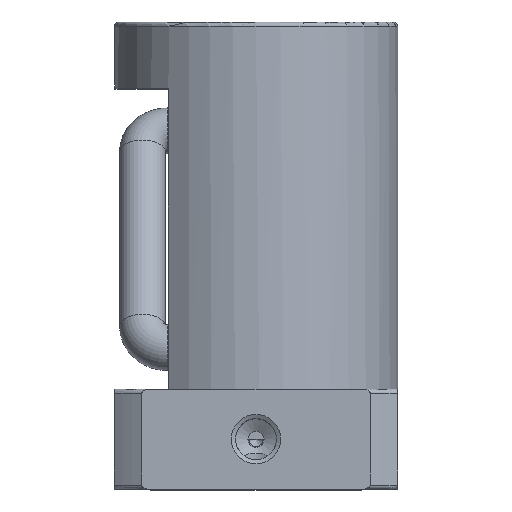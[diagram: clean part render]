
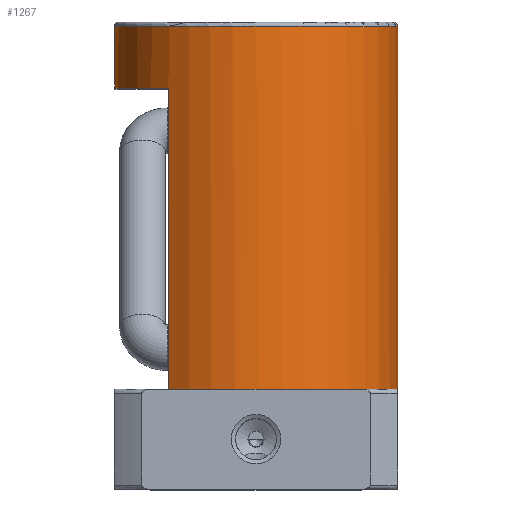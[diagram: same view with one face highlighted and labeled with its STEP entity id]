
A CAD part, top view. The second image highlights one B-rep face of the part: STEP entity #1267.
In plain terms, the highlighted cylindrical face has radius 17 mm (diameter 34 mm), a full revolution.
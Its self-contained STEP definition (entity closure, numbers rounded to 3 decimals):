
#40=CYLINDRICAL_SURFACE('',#1336,17.);
#100=CIRCLE('',#1337,17.);
#101=CIRCLE('',#1338,17.);
#102=CIRCLE('',#1339,17.);
#103=CIRCLE('',#1340,17.);
#167=ORIENTED_EDGE('',*,*,#391,.T.);
#168=ORIENTED_EDGE('',*,*,#392,.F.);
#169=ORIENTED_EDGE('',*,*,#382,.T.);
#170=ORIENTED_EDGE('',*,*,#393,.T.);
#171=ORIENTED_EDGE('',*,*,#394,.T.);
#172=ORIENTED_EDGE('',*,*,#380,.T.);
#380=EDGE_CURVE('',#493,#491,#580,.F.);
#382=EDGE_CURVE('',#492,#494,#582,.T.);
#391=EDGE_CURVE('',#503,#503,#100,.F.);
#392=EDGE_CURVE('',#492,#491,#101,.T.);
#393=EDGE_CURVE('',#494,#504,#102,.F.);
#394=EDGE_CURVE('',#504,#493,#103,.F.);
#491=VERTEX_POINT('',#1735);
#492=VERTEX_POINT('',#1736);
#493=VERTEX_POINT('',#1738);
#494=VERTEX_POINT('',#1740);
#503=VERTEX_POINT('',#1834);
#504=VERTEX_POINT('',#1837);
#580=LINE('',#1737,#603);
#582=LINE('',#1741,#605);
#603=VECTOR('',#1460,1000.);
#605=VECTOR('',#1462,1000.);
#632=EDGE_LOOP('',(#167));
#633=EDGE_LOOP('',(#168,#169,#170,#171,#172));
#736=FACE_BOUND('',#632,.T.);
#737=FACE_BOUND('',#633,.T.);
#1267=ADVANCED_FACE('',(#736,#737),#40,.T.);
#1336=AXIS2_PLACEMENT_3D('',#1832,#1477,#1478);
#1337=AXIS2_PLACEMENT_3D('',#1833,#1479,#1480);
#1338=AXIS2_PLACEMENT_3D('',#1835,#1481,#1482);
#1339=AXIS2_PLACEMENT_3D('',#1836,#1483,#1484);
#1340=AXIS2_PLACEMENT_3D('',#1838,#1485,#1486);
#1460=DIRECTION('',(0.,-1.,0.));
#1462=DIRECTION('',(0.,-1.,0.));
#1477=DIRECTION('',(0.,-1.,0.));
#1478=DIRECTION('',(0.,0.,-1.));
#1479=DIRECTION('',(0.,1.,0.));
#1480=DIRECTION('',(0.,0.,1.));
#1481=DIRECTION('',(0.,-1.,0.));
#1482=DIRECTION('',(0.,0.,-1.));
#1483=DIRECTION('',(0.,-1.,0.));
#1484=DIRECTION('',(0.,0.,-1.));
#1485=DIRECTION('',(0.,-1.,0.));
#1486=DIRECTION('',(0.,0.,-1.));
#1735=CARTESIAN_POINT('',(-10.5,48.,-13.37));
#1736=CARTESIAN_POINT('',(-10.5,48.,13.37));
#1737=CARTESIAN_POINT('',(-10.5,56.,-13.37));
#1738=CARTESIAN_POINT('',(-10.5,12.,-13.37));
#1740=CARTESIAN_POINT('',(-10.5,12.,13.37));
#1741=CARTESIAN_POINT('',(-10.5,56.,13.37));
#1832=CARTESIAN_POINT('',(0.,56.,0.));
#1833=CARTESIAN_POINT('',(0.,55.5,0.));
#1834=CARTESIAN_POINT('',(0.,55.5,17.));
#1835=CARTESIAN_POINT('',(0.,48.,0.));
#1836=CARTESIAN_POINT('',(0.,12.,0.));
#1837=CARTESIAN_POINT('',(17.,12.,0.));
#1838=CARTESIAN_POINT('',(0.,12.,0.));
